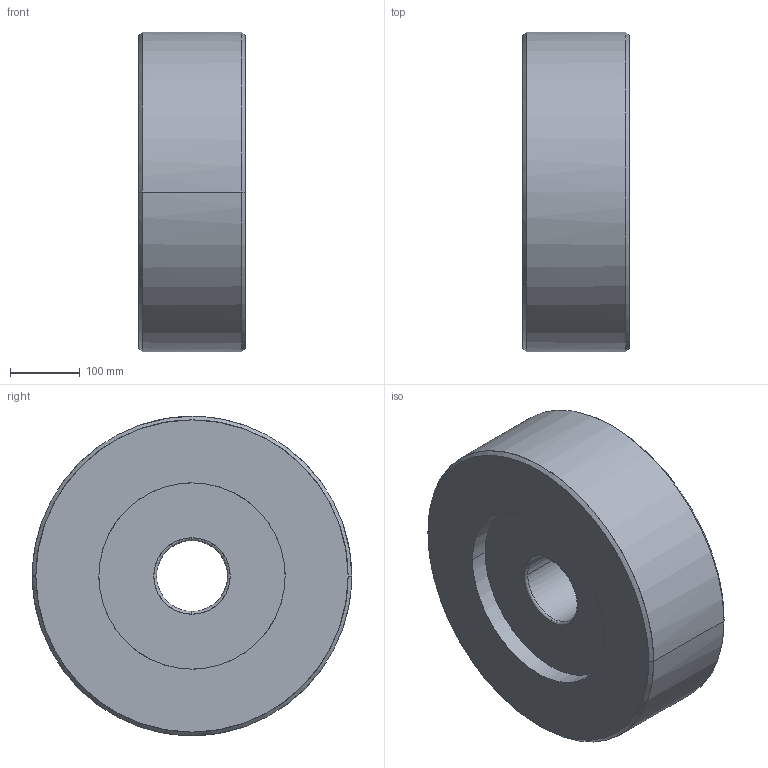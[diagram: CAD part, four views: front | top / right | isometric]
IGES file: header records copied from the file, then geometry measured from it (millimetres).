
Global section: native system: Kubotek KeyCreator; preprocessor: KCM Version 1.1.1442.0; author: KeyCreator User; organization: Self; date: 20170713.025810; units: inch
Bounding box: 152.4 x 457.2 x 457.2 mm (x, y, z)
Surface area: 596555.7 mm2 (no closed solid volume)
Topology: 0 solids, 0 shells, 20 faces, 128 edges, 128 vertices
Faces by surface type: bspline 20
